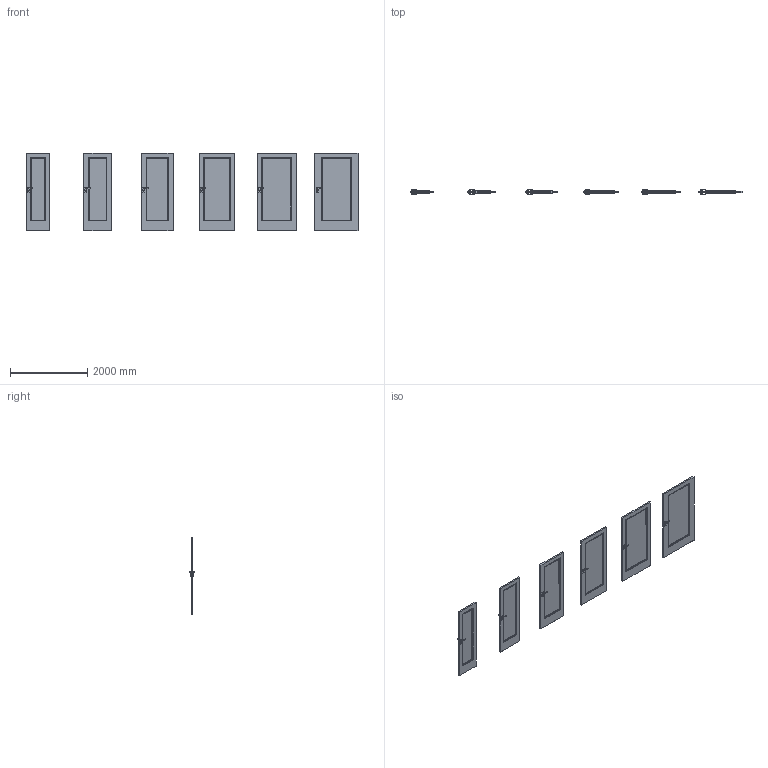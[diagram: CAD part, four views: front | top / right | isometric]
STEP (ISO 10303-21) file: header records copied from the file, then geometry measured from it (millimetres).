
FILE_DESCRIPTION(/* description */ (''),/* implementation_level */ '2;1');
FILE_NAME(/* name */ '049716_A_2-Skrzydło CPL model 1.4_ polska norma _PN__ bezprzylgowe..stp',/* time_stamp */ '2024-02-16T09:19:14+01:00',/* author */ (''),/* organization */ (''),/* preprocessor_version */ 'ST-DEVELOPER v16',/* originating_system */ 'SIEMENS PLM Software NX 11.0',/* authorisation */ '');
FILE_SCHEMA (('AUTOMOTIVE_DESIGN { 1 0 10303 214 3 1 1 1 }'));
Products named in the file (1): bkni4C70E1ECxuzl
Bounding box: 8618 x 153.27 x 2017 mm (x, y, z)
Volume: 258741277.3 mm3; surface area: 50955625.2 mm2
Topology: 217 solids, 217 shells, 4008 faces, 10194 edges, 6500 vertices
Faces by surface type: plane 2370, bspline 1182, cylinder 288, sphere 168
Entity records: 137256 total; most frequent: CARTESIAN_POINT 49358, ORIENTED_EDGE 20052, DIRECTION 14240, EDGE_CURVE 10026, LINE 6786, VECTOR 6786, VERTEX_POINT 6500, EDGE_LOOP 4092
